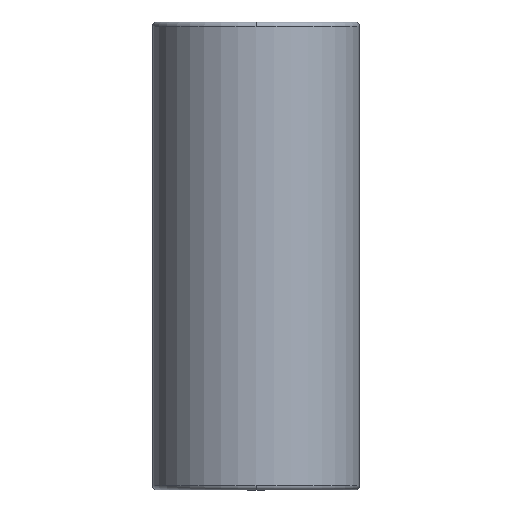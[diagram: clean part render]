
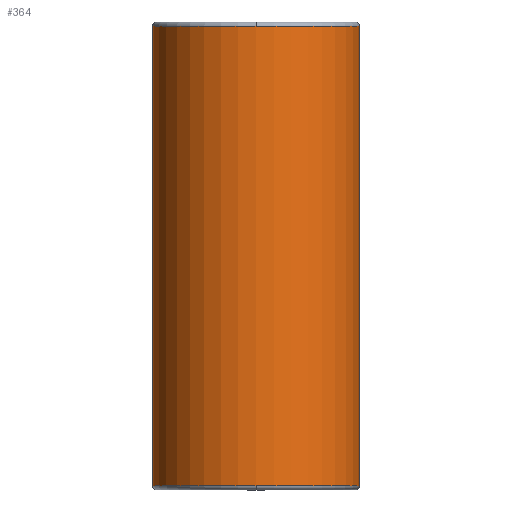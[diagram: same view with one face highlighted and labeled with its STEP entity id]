
A CAD part, front view. The second image highlights one B-rep face of the part: STEP entity #364.
In plain terms, the highlighted cylindrical face has radius 47.492 mm (diameter 94.984 mm), a partial arc.
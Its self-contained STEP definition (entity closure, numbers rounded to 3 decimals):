
#269=CARTESIAN_POINT('',(0.0,-47.492,213.0));
#270=VERTEX_POINT('',#269);
#296=CARTESIAN_POINT('',(-47.492,0.,213.0));
#297=VERTEX_POINT('',#296);
#305=CARTESIAN_POINT('',(0.0,0.,213.0));
#306=DIRECTION('',(0.0,0.0,1.0));
#307=DIRECTION('',(1.0,0.0,0.0));
#308=AXIS2_PLACEMENT_3D('',#305,#306,#307);
#309=CIRCLE('',#308,47.492);
#310=EDGE_CURVE('',#297,#270,#309,.T.);
#315=CARTESIAN_POINT('',(0.0,0.,107.5));
#316=DIRECTION('',(0.0,0.,1.0));
#317=DIRECTION('',(1.0,0.0,0.0));
#318=AXIS2_PLACEMENT_3D('',#315,#316,#317);
#319=CYLINDRICAL_SURFACE('',#318,47.492);
#320=CARTESIAN_POINT('',(47.492,0.,213.0));
#321=VERTEX_POINT('',#320);
#322=CARTESIAN_POINT('',(47.492,0.,2.));
#323=VERTEX_POINT('',#322);
#324=CARTESIAN_POINT('',(47.492,0.,213.0));
#325=DIRECTION('',(0.0,0.0,-1.0));
#326=VECTOR('',#325,211.0);
#327=LINE('',#324,#326);
#328=EDGE_CURVE('',#321,#323,#327,.T.);
#329=ORIENTED_EDGE('',*,*,#328,.F.);
#330=CARTESIAN_POINT('',(0.0,0.,213.0));
#331=DIRECTION('',(0.0,0.0,1.0));
#332=DIRECTION('',(1.0,0.0,0.0));
#333=AXIS2_PLACEMENT_3D('',#330,#331,#332);
#334=CIRCLE('',#333,47.492);
#335=EDGE_CURVE('',#270,#321,#334,.T.);
#336=ORIENTED_EDGE('',*,*,#335,.F.);
#337=ORIENTED_EDGE('',*,*,#310,.F.);
#338=CARTESIAN_POINT('',(-47.492,0.,2.0));
#339=VERTEX_POINT('',#338);
#340=CARTESIAN_POINT('',(-47.492,0.,213.0));
#341=DIRECTION('',(0.0,0.0,-1.0));
#342=VECTOR('',#341,211.0);
#343=LINE('',#340,#342);
#344=EDGE_CURVE('',#297,#339,#343,.T.);
#345=ORIENTED_EDGE('',*,*,#344,.T.);
#346=CARTESIAN_POINT('',(0.0,-47.492,2.));
#347=VERTEX_POINT('',#346);
#348=CARTESIAN_POINT('',(0.0,0.,2.0));
#349=DIRECTION('',(0.0,0.0,1.0));
#350=DIRECTION('',(1.0,0.0,0.0));
#351=AXIS2_PLACEMENT_3D('',#348,#349,#350);
#352=CIRCLE('',#351,47.492);
#353=EDGE_CURVE('',#339,#347,#352,.T.);
#354=ORIENTED_EDGE('',*,*,#353,.T.);
#355=CARTESIAN_POINT('',(0.0,0.,2.0));
#356=DIRECTION('',(0.0,0.0,1.0));
#357=DIRECTION('',(1.0,0.0,0.0));
#358=AXIS2_PLACEMENT_3D('',#355,#356,#357);
#359=CIRCLE('',#358,47.492);
#360=EDGE_CURVE('',#347,#323,#359,.T.);
#361=ORIENTED_EDGE('',*,*,#360,.T.);
#362=EDGE_LOOP('',(#329,#336,#337,#345,#354,#361));
#363=FACE_OUTER_BOUND('',#362,.T.);
#364=ADVANCED_FACE('',(#363),#319,.T.);
